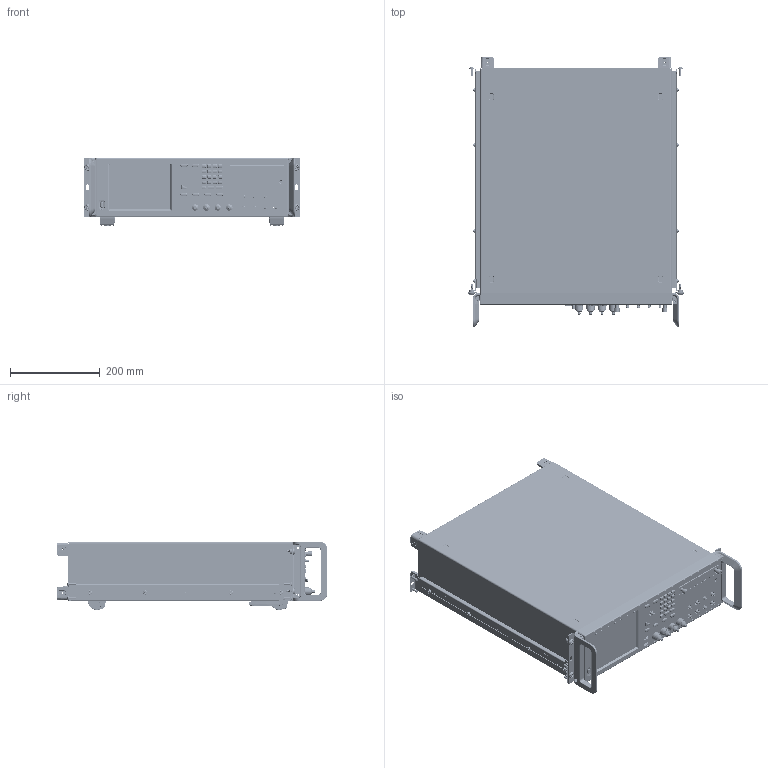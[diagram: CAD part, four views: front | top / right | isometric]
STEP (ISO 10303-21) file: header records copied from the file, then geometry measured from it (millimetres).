
FILE_DESCRIPTION((''),'2;1');
FILE_NAME('MASTER_PASCAL_PAS_ASM','2019-03-13T',('davidswa'),(''),'CREO PARAMETRIC BY PTC INC, 2016050','CREO PARAMETRIC BY PTC INC, 2016050','');
FILE_SCHEMA(('CONFIG_CONTROL_DESIGN'));
Length unit declared in the file: inch
Products named in the file (106): BRKT_FOOT_REAR_PAS; BRKT_FOOT_REAR_PAS_ASM; LABEL_REAR_CLOCK_SINGLE_PAS; MODULE_CHASSIS_PAS_ASM; BRKT_FANTRAY_PAS; BRKT_FANTRAY_PAS_ASM; FAN_92MM_R66; FAN_92MM_W_CABLE_PAS_ASM; SCREW_FH_M5X10_TX15_ST_FSN; SCREW_FH_6-32X375_TX10_NYLC_LIB; MODULE_FANTRAY_PAS_ASM; TRANSFORMER_G-BIT_RJ45_EMI_LIB; CONN_1X4_USB_TH_F_RA_B_LIB; CONN_VGA_DB15_HD; CONN_15_DSUB_TH_F_RA_LIB; CONN_SMB_RA_BULKHEAD_PAS; SAMTEC_ERC-031; CONN_1X4_USB30_RA_DUAL_PBFREE; CONN_JACK_SMA_TH_F_RA_PNL_PAS; PCB_SYS_PAS_ASM; PCB_SLOW_MARKER_PAS_ASM; BRKT_PCB_SYS_REAR_PAS; CONN_GROUND_JACK_PRESSIN_TMR; LABEL_SYSTEM_REAR_PAS; BRKT_PCB_SYS_REAR_PAS_ASM; CONN_LINEINPUT_HH; CONN_ESATA_CABLE-2-CHASSIS_MKS; CABLE_SATA-2-ESATA_IN-ASM_MKS_ASM; MODULE_PCB_SYS_PAS_ASM; SPARKPLUG_625_PAS; PCB_CLK_PAS_ASM; MODULE_PCB_CLK_PAS_ASM; MODULE_OPTION_TRAY_PAS_ASM; COVER_COSMETIC_CAN_PAS; F-832-2; COVER_COSMETIC_CAN_PAS_ASM; COVER_COSMETIC_CAN_BOT_PAS; COVER_COSMETIC_CAN_BOT_PAS_ASM; GASKET_CAN_REAR_PAS; GASKET_FOAM_TRI_500X090_PAS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
Assembly tree (207 placements, depth 6):
  MASTER_PASCAL_PAS_ASM
    MODULE_CHASSIS_PAS_ASM
      BRKT_FOOT_REAR_PAS_ASM
        BRKT_FOOT_REAR_PAS
      LABEL_REAR_CLOCK_SINGLE_PAS
    MODULE_FANTRAY_PAS_ASM
      BRKT_FANTRAY_PAS_ASM
        BRKT_FANTRAY_PAS
      FAN_92MM_W_CABLE_PAS_ASM  x5
        FAN_92MM_R66
      SCREW_FH_M5X10_TX15_ST_FSN  x20
      SCREW_FH_6-32X375_TX10_NYLC_LIB  x8
    MODULE_PCB_SYS_PAS_ASM
      PCB_SYS_PAS_ASM
        TRANSFORMER_G-BIT_RJ45_EMI_LIB
        CONN_1X4_USB_TH_F_RA_B_LIB
        CONN_VGA_DB15_HD
        CONN_15_DSUB_TH_F_RA_LIB
        CONN_SMB_RA_BULKHEAD_PAS  x4
        SAMTEC_ERC-031
        CONN_1X4_USB30_RA_DUAL_PBFREE  x2
        CONN_JACK_SMA_TH_F_RA_PNL_PAS  x2
      PCB_SLOW_MARKER_PAS_ASM
        CONN_SMB_RA_BULKHEAD_PAS  x4
      BRKT_PCB_SYS_REAR_PAS_ASM
        BRKT_PCB_SYS_REAR_PAS
        CONN_GROUND_JACK_PRESSIN_TMR
        LABEL_SYSTEM_REAR_PAS
      CONN_LINEINPUT_HH
      CABLE_SATA-2-ESATA_IN-ASM_MKS_ASM
        CONN_ESATA_CABLE-2-CHASSIS_MKS
    MODULE_OPTION_TRAY_PAS_ASM
      MODULE_PCB_CLK_PAS_ASM
        PCB_CLK_PAS_ASM
          SPARKPLUG_625_PAS  x4
    MODULE_COSMETIC_PAS_ASM
      COVER_COSMETIC_CAN_ASSY_PAS_ASM
        COVER_COSMETIC_CAN_PAS_ASM
          COVER_COSMETIC_CAN_PAS
          F-832-2  x4
        COVER_COSMETIC_CAN_BOT_PAS_ASM
          COVER_COSMETIC_CAN_BOT_PAS
        GASKET_CAN_REAR_PAS
        GASKET_FOAM_TRI_500X090_PAS  x2
      FOOT_FLIP_EXTERNAL_ASM  x2
        FOOT_FLIP_EXT_HORZ_SUBASM_ASM
          FOOT_STATIONARY_EXT_TEK
          FOOT_FRONT_TEK
          SPRING_DETENT_FOOT_TEK
        CUSHION_FOOT_TEK
      FOOT_STATIONARY_EXTERNAL_ASM  x2
        FOOT_STATIONARY_EXT_TEK
        CUSHION_FOOT_TEK
      FOOT_REAR_PAS_ASM  x4
        FOOT_REAR_PAS
        INSERT_ULTRASONIC_832-1
      MODULE_CASE_FRONT_PAS_ASM
        CASE_FRONT_MASTER_PAS
        LABEL_FRONT_PANEL_2_CHAN_PAS
        LABEL_NOMENCLATURE_AWG70002_PAS
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Bounding box: 480.82 x 603.38 x 153.64 mm (x, y, z)
Volume: 1950599.4 mm3; surface area: 2482958.9 mm2
Topology: 181 solids, 188 shells, 22691 faces, 59512 edges, 37743 vertices
Faces by surface type: plane 12728, cylinder 6086, bspline 1719, cone 1406, torus 366, extrusion 258, sphere 128
Entity records: 592932 total; most frequent: CARTESIAN_POINT 140261, ORIENTED_EDGE 69281, DIRECTION 63977, PRESENTATION_STYLE_ASSIGNMENT 35303, STYLED_ITEM 35195, EDGE_CURVE 34879, CURVE_STYLE 32377, VECTOR 25111
